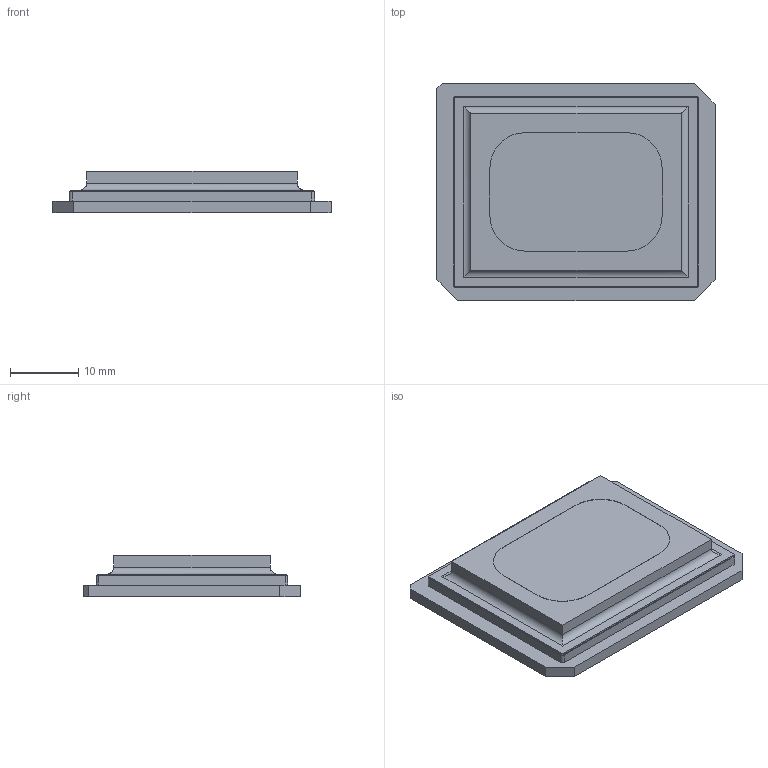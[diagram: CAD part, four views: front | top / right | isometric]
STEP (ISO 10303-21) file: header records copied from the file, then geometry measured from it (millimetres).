
FILE_DESCRIPTION((''),'2;1');
FILE_NAME('C:\Work\dmd-specs\thermal-models\2509321-65-1080p-TA-7DMD.stp','2008-01-23T11:26:52',('a0130832'),(''),'Autodesk Inventor 2008','Autodesk Inventor 2008','');
FILE_SCHEMA(('AUTOMOTIVE_DESIGN { 1 0 10303 214 1 1 1 1 }'));
Length unit declared in the file: millimetre
Products named in the file (3): TA-7-STEP-DMD-wAperture; TA-7-STEP-Ceramic-wAperture; TA-7-STEP-WGlass
Assembly tree (2 placements, depth 2):
  TA-7-STEP-DMD-wAperture
    TA-7-STEP-Ceramic-wAperture
    TA-7-STEP-WGlass
Bounding box: 40.64 x 31.75 x 6.01 mm (x, y, z)
Volume: 4778 mm3; surface area: 5754.8 mm2
Topology: 2 solids, 2 shells, 80 faces, 200 edges, 132 vertices
Faces by surface type: plane 56, cylinder 24
Entity records: 2465 total; most frequent: CARTESIAN_POINT 417, DIRECTION 414, ORIENTED_EDGE 400, EDGE_CURVE 200, VECTOR 156, LINE 156, VERTEX_POINT 132, AXIS2_PLACEMENT_3D 129
